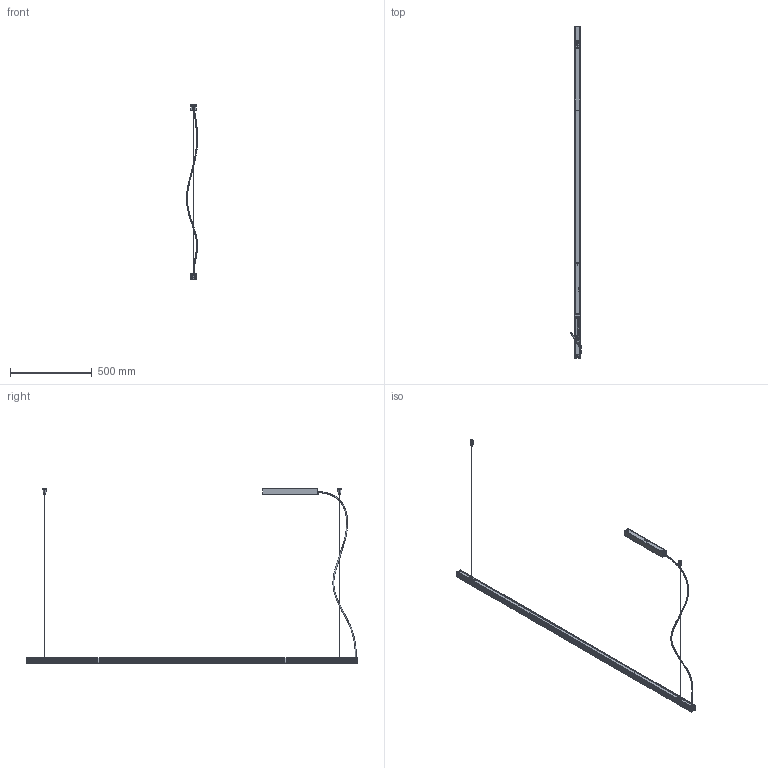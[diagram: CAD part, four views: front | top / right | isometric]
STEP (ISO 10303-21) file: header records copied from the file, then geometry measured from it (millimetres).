
FILE_DESCRIPTION(/* description */ (''),/* implementation_level */ '2;1');
FILE_NAME(/* name */ 'L233__~3',/* time_stamp */ '2024-07-01T14:46:11+02:00',/* author */ (''),/* organization */ (''),/* preprocessor_version */ 'ST-DEVELOPER v16.5',/* originating_system */ '',/* authorisation */ '');
FILE_SCHEMA (('AUTOMOTIVE_DESIGN'));
Length unit declared in the file: millimetre
Products named in the file (1): Document
Bounding box: 67.87 x 2027.4 x 1066.18 mm (x, y, z)
Volume: 670343.9 mm3; surface area: 888992.1 mm2
Topology: 30 solids, 30 shells, 1422 faces, 3378 edges, 2020 vertices
Faces by surface type: bspline 738, plane 684
Entity records: 52734 total; most frequent: CARTESIAN_POINT 31788, ORIENTED_EDGE 6732, EDGE_CURVE 3366, B_SPLINE_CURVE_WITH_KNOTS 2188, VERTEX_POINT 2020, EDGE_LOOP 1504, ADVANCED_FACE 1422, FACE_OUTER_BOUND 1422
